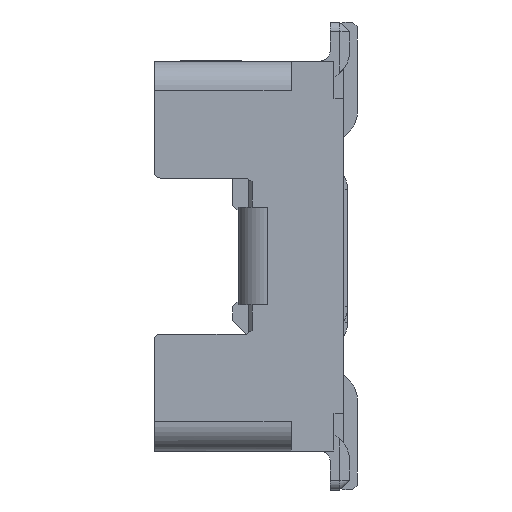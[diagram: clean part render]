
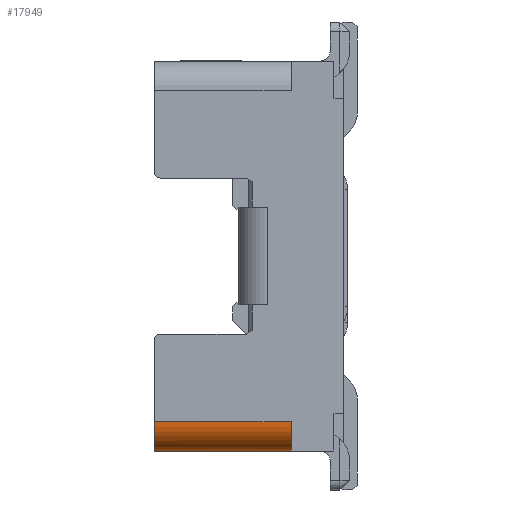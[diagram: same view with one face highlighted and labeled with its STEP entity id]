
A CAD part, left-side view. The second image highlights one B-rep face of the part: STEP entity #17949.
In plain terms, the highlighted cylindrical face has radius 0.15 mm (diameter 0.3 mm), a partial arc.
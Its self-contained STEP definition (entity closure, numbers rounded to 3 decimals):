
#2324 = VECTOR ( 'NONE', #14834, 1000. ) ;
#3929 = LINE ( 'NONE', #21652, #2324 ) ;
#4029 = ORIENTED_EDGE ( 'NONE', *, *, #13353, .F. ) ;
#4373 = CARTESIAN_POINT ( 'NONE',  ( -1.98, 0.15, -0.997 ) ) ;
#4486 = ORIENTED_EDGE ( 'NONE', *, *, #8341, .F. ) ;
#4684 = DIRECTION ( 'NONE',  ( 0., -1., 0. ) ) ;
#5413 = DIRECTION ( 'NONE',  ( 0., -1., 0. ) ) ;
#6199 = EDGE_CURVE ( 'NONE', #17784, #27795, #8831, .T. ) ;
#8341 = EDGE_CURVE ( 'NONE', #17784, #26508, #3929, .T. ) ;
#8831 = B_SPLINE_CURVE_WITH_KNOTS ( 'NONE', 3,
 ( #12219, #16687, #16836, #20833 ),
 .UNSPECIFIED., .F., .F.,
 ( 4, 4 ),
 ( 0., 0. ),
 .UNSPECIFIED. ) ;
#10431 = CARTESIAN_POINT ( 'NONE',  ( -1.95, 0.15, -0.85 ) ) ;
#12219 = CARTESIAN_POINT ( 'NONE',  ( -1.95, 0.145, -1. ) ) ;
#12462 = VERTEX_POINT ( 'NONE', #13710 ) ;
#12749 = CARTESIAN_POINT ( 'NONE',  ( -1.95, 0.85, -1. ) ) ;
#13353 = EDGE_CURVE ( 'NONE', #12462, #29116, #29254, .T. ) ;
#13710 = CARTESIAN_POINT ( 'NONE',  ( -2.1, 0.85, -0.85 ) ) ;
#14834 = DIRECTION ( 'NONE',  ( 0., 1., 0. ) ) ;
#15380 = ORIENTED_EDGE ( 'NONE', *, *, #15659, .F. ) ;
#15659 = EDGE_CURVE ( 'NONE', #29116, #27795, #17287, .T. ) ;
#16687 = CARTESIAN_POINT ( 'NONE',  ( -1.96, 0.148, -1. ) ) ;
#16836 = CARTESIAN_POINT ( 'NONE',  ( -1.97, 0.15, -0.999 ) ) ;
#16904 = CYLINDRICAL_SURFACE ( 'NONE', #23747, 0.15 ) ;
#17287 = CIRCLE ( 'NONE', #29149, 0.15 ) ;
#17441 = DIRECTION ( 'NONE',  ( 0., -1., 0. ) ) ;
#17445 = AXIS2_PLACEMENT_3D ( 'NONE', #20835, #27822, #23504 ) ;
#17784 = VERTEX_POINT ( 'NONE', #23286 ) ;
#17949 = ADVANCED_FACE ( 'NONE', ( #19136 ), #16904, .T. ) ;
#19136 = FACE_OUTER_BOUND ( 'NONE', #21629, .T. ) ;
#19790 = CIRCLE ( 'NONE', #17445, 0.15 ) ;
#20833 = CARTESIAN_POINT ( 'NONE',  ( -1.98, 0.15, -0.997 ) ) ;
#20835 = CARTESIAN_POINT ( 'NONE',  ( -1.95, 0.85, -0.85 ) ) ;
#21629 = EDGE_LOOP ( 'NONE', ( #4029, #25318, #4486, #22697, #15380 ) ) ;
#21652 = CARTESIAN_POINT ( 'NONE',  ( -1.95, 0.85, -1. ) ) ;
#22022 = CARTESIAN_POINT ( 'NONE',  ( -2.1, 0.15, -0.85 ) ) ;
#22697 = ORIENTED_EDGE ( 'NONE', *, *, #6199, .T. ) ;
#23286 = CARTESIAN_POINT ( 'NONE',  ( -1.95, 0.145, -1. ) ) ;
#23504 = DIRECTION ( 'NONE',  ( 0., 0., 1. ) ) ;
#23747 = AXIS2_PLACEMENT_3D ( 'NONE', #25947, #5413, #28484 ) ;
#25074 = CARTESIAN_POINT ( 'NONE',  ( -2.1, 0.85, -0.85 ) ) ;
#25318 = ORIENTED_EDGE ( 'NONE', *, *, #28271, .F. ) ;
#25947 = CARTESIAN_POINT ( 'NONE',  ( -1.95, 0.85, -0.85 ) ) ;
#26481 = DIRECTION ( 'NONE',  ( 0., 0., 1. ) ) ;
#26508 = VERTEX_POINT ( 'NONE', #12749 ) ;
#27795 = VERTEX_POINT ( 'NONE', #4373 ) ;
#27822 = DIRECTION ( 'NONE',  ( 0., 1., 0. ) ) ;
#28271 = EDGE_CURVE ( 'NONE', #26508, #12462, #19790, .T. ) ;
#28484 = DIRECTION ( 'NONE',  ( 0., 0., -1. ) ) ;
#29113 = VECTOR ( 'NONE', #4684, 1000. ) ;
#29116 = VERTEX_POINT ( 'NONE', #22022 ) ;
#29149 = AXIS2_PLACEMENT_3D ( 'NONE', #10431, #17441, #26481 ) ;
#29254 = LINE ( 'NONE', #25074, #29113 ) ;
